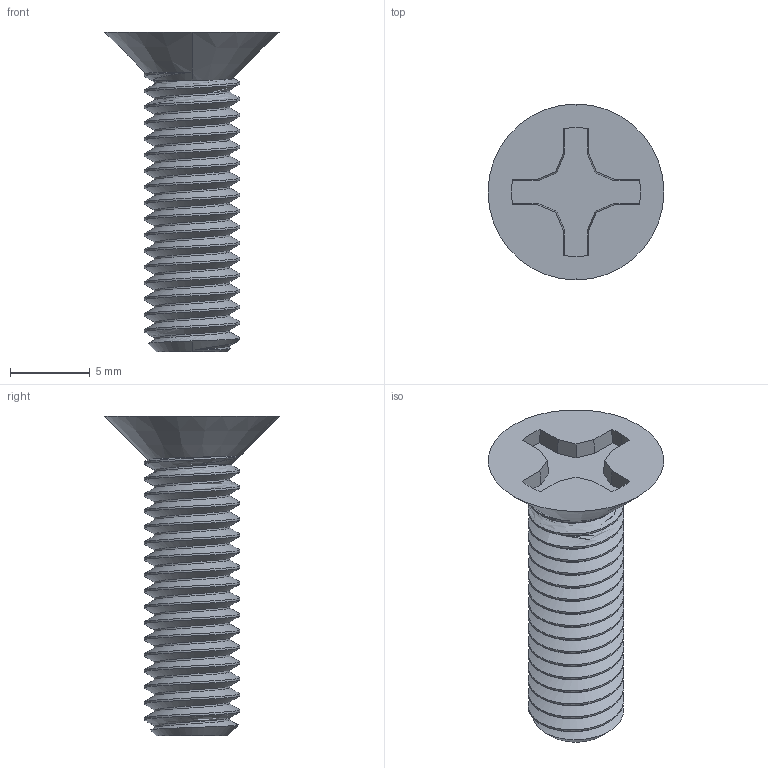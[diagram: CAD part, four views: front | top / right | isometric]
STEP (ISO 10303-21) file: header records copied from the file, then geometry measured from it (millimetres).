
FILE_DESCRIPTION (( 'STEP AP203' ), '1' );
FILE_NAME ('Phillips Flat Head Screw M6.STEP', '2025-05-19T11:32:04', ( '' ), ( '' ), 'SwSTEP 2.0', 'SolidWorks 2024', '' );
FILE_SCHEMA (( 'CONFIG_CONTROL_DESIGN' ));
Length unit declared in the file: millimetre
Products named in the file (1): Phillips Flat Head Screw M6
Bounding box: 11 x 11 x 20 mm (x, y, z)
Volume: 515.6 mm3; surface area: 742.4 mm2
Topology: 1 solids, 1 shells, 69 faces, 196 edges, 130 vertices
Faces by surface type: cylinder 41, plane 20, cone 5, bspline 3
Entity records: 5211 total; most frequent: CARTESIAN_POINT 3582, ORIENTED_EDGE 392, DIRECTION 263, EDGE_CURVE 196, VERTEX_POINT 130, AXIS2_PLACEMENT_3D 89, LINE 85, VECTOR 85
